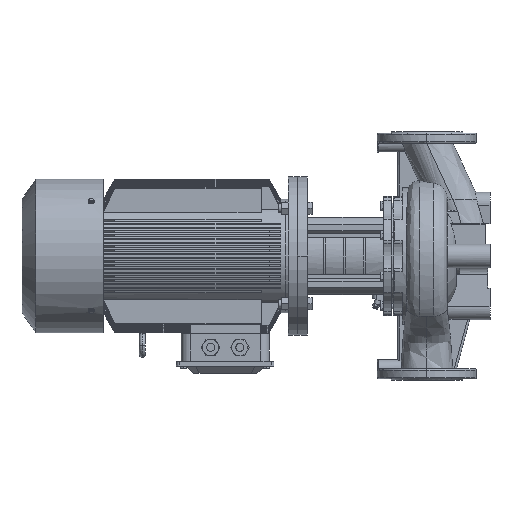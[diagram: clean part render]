
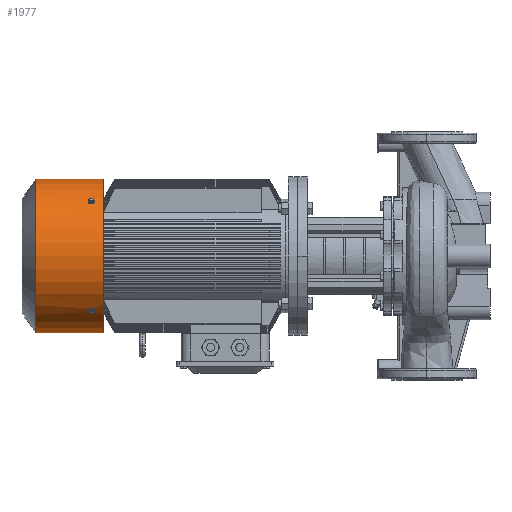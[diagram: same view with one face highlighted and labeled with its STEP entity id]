
A CAD part, left-side view. The second image highlights one B-rep face of the part: STEP entity #1977.
In plain terms, the highlighted cylindrical face has radius 170 mm (diameter 340 mm), a partial arc.
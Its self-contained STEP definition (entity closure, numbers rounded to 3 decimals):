
#278=FACE_BOUND('',#5509,.T.);
#279=FACE_BOUND('',#5510,.T.);
#280=FACE_BOUND('',#5511,.T.);
#769=CYLINDRICAL_SURFACE('',#26199,170.);
#1977=ADVANCED_FACE('',(#278,#279,#280),#769,.T.);
#5509=EDGE_LOOP('',(#12327,#12328));
#5510=EDGE_LOOP('',(#12329,#12330));
#5511=EDGE_LOOP('',(#12331,#12332,#12333,#12334));
#7219=CIRCLE('',#26196,170.);
#7220=CIRCLE('',#26198,170.);
#8224=B_SPLINE_CURVE_WITH_KNOTS('',3,(#45585,#45586,#45587,#45588,#45589,
#45590,#45591,#45592,#45593,#45594),.UNSPECIFIED.,.F.,.F.,(4,2,2,2,4),(0.,
0.25,0.5,0.75,1.),.UNSPECIFIED.);
#8227=B_SPLINE_CURVE_WITH_KNOTS('',3,(#45639,#45640,#45641,#45642,#45643,
#45644,#45645,#45646,#45647,#45648),.UNSPECIFIED.,.F.,.F.,(4,2,2,2,4),(0.,
0.25,0.5,0.75,1.),.UNSPECIFIED.);
#8228=B_SPLINE_CURVE_WITH_KNOTS('',3,(#45661,#45662,#45663,#45664,#45665,
#45666,#45667,#45668,#45669,#45670),.UNSPECIFIED.,.F.,.F.,(4,2,2,2,4),(0.,
0.25,0.5,0.75,1.),.UNSPECIFIED.);
#8229=B_SPLINE_CURVE_WITH_KNOTS('',3,(#45671,#45672,#45673,#45674,#45675,
#45676,#45677,#45678,#45679,#45680),.UNSPECIFIED.,.F.,.F.,(4,2,2,2,4),(0.,
0.25,0.5,0.75,1.),.UNSPECIFIED.);
#12327=ORIENTED_EDGE('',*,*,#20505,.T.);
#12328=ORIENTED_EDGE('',*,*,#20511,.T.);
#12329=ORIENTED_EDGE('',*,*,#20493,.T.);
#12330=ORIENTED_EDGE('',*,*,#20512,.T.);
#12331=ORIENTED_EDGE('',*,*,#20509,.T.);
#12332=ORIENTED_EDGE('',*,*,#20513,.F.);
#12333=ORIENTED_EDGE('',*,*,#20514,.F.);
#12334=ORIENTED_EDGE('',*,*,#20515,.T.);
#17561=VERTEX_POINT('',#45584);
#17562=VERTEX_POINT('',#45595);
#17573=VERTEX_POINT('',#45638);
#17574=VERTEX_POINT('',#45649);
#17577=VERTEX_POINT('',#45656);
#17578=VERTEX_POINT('',#45658);
#17579=VERTEX_POINT('',#45682);
#17580=VERTEX_POINT('',#45684);
#20493=EDGE_CURVE('',#17562,#17561,#8224,.T.);
#20505=EDGE_CURVE('',#17574,#17573,#8227,.T.);
#20509=EDGE_CURVE('',#17578,#17577,#7219,.T.);
#20511=EDGE_CURVE('',#17573,#17574,#8228,.T.);
#20512=EDGE_CURVE('',#17561,#17562,#8229,.T.);
#20513=EDGE_CURVE('',#17579,#17577,#23057,.T.);
#20514=EDGE_CURVE('',#17580,#17579,#7220,.T.);
#20515=EDGE_CURVE('',#17580,#17578,#23058,.T.);
#23057=LINE('',#45681,#24403);
#23058=LINE('',#45685,#24404);
#24403=VECTOR('',#31175,1.);
#24404=VECTOR('',#31178,1.);
#26196=AXIS2_PLACEMENT_3D('',#45657,#31170,#31171);
#26198=AXIS2_PLACEMENT_3D('',#45683,#31176,#31177);
#26199=AXIS2_PLACEMENT_3D('',#45686,#31179,#31180);
#31170=DIRECTION('',(0.,-1.,0.));
#31171=DIRECTION('',(0.,0.,1.));
#31175=DIRECTION('',(0.,1.,0.));
#31176=DIRECTION('',(0.,-1.,0.));
#31177=DIRECTION('',(0.,0.,1.));
#31178=DIRECTION('',(0.,1.,0.));
#31179=DIRECTION('',(0.,-1.,0.));
#31180=DIRECTION('',(0.,0.,-1.));
#45584=CARTESIAN_POINT('',(-124.92,743.5,115.304));
#45585=CARTESIAN_POINT('',(-115.304,743.5,124.92));
#45586=CARTESIAN_POINT('',(-115.304,741.703,124.92));
#45587=CARTESIAN_POINT('',(-115.848,739.946,124.422));
#45588=CARTESIAN_POINT('',(-117.672,737.437,122.698));
#45589=CARTESIAN_POINT('',(-118.951,736.701,121.466));
#45590=CARTESIAN_POINT('',(-121.459,736.699,118.957));
#45591=CARTESIAN_POINT('',(-122.685,737.42,117.686));
#45592=CARTESIAN_POINT('',(-124.43,739.957,115.839));
#45593=CARTESIAN_POINT('',(-124.92,741.703,115.304));
#45594=CARTESIAN_POINT('',(-124.92,743.5,115.304));
#45595=CARTESIAN_POINT('',(-115.304,743.5,124.92));
#45638=CARTESIAN_POINT('',(-115.304,743.5,-124.92));
#45639=CARTESIAN_POINT('',(-124.92,743.5,-115.304));
#45640=CARTESIAN_POINT('',(-124.92,741.703,-115.304));
#45641=CARTESIAN_POINT('',(-124.422,739.946,-115.848));
#45642=CARTESIAN_POINT('',(-122.698,737.437,-117.672));
#45643=CARTESIAN_POINT('',(-121.466,736.701,-118.951));
#45644=CARTESIAN_POINT('',(-118.957,736.699,-121.459));
#45645=CARTESIAN_POINT('',(-117.686,737.42,-122.685));
#45646=CARTESIAN_POINT('',(-115.839,739.957,-124.43));
#45647=CARTESIAN_POINT('',(-115.304,741.703,-124.92));
#45648=CARTESIAN_POINT('',(-115.304,743.5,-124.92));
#45649=CARTESIAN_POINT('',(-124.92,743.5,-115.304));
#45656=CARTESIAN_POINT('',(0.,865.551,-170.));
#45657=CARTESIAN_POINT('',(0.,865.551,0.));
#45658=CARTESIAN_POINT('',(0.,865.551,170.));
#45661=CARTESIAN_POINT('',(-115.304,743.5,-124.92));
#45662=CARTESIAN_POINT('',(-115.304,745.297,-124.92));
#45663=CARTESIAN_POINT('',(-115.848,747.054,-124.422));
#45664=CARTESIAN_POINT('',(-117.672,749.563,-122.698));
#45665=CARTESIAN_POINT('',(-118.951,750.299,-121.466));
#45666=CARTESIAN_POINT('',(-121.459,750.301,-118.957));
#45667=CARTESIAN_POINT('',(-122.685,749.58,-117.686));
#45668=CARTESIAN_POINT('',(-124.43,747.043,-115.839));
#45669=CARTESIAN_POINT('',(-124.92,745.297,-115.304));
#45670=CARTESIAN_POINT('',(-124.92,743.5,-115.304));
#45671=CARTESIAN_POINT('',(-124.92,743.5,115.304));
#45672=CARTESIAN_POINT('',(-124.92,745.297,115.304));
#45673=CARTESIAN_POINT('',(-124.422,747.054,115.848));
#45674=CARTESIAN_POINT('',(-122.698,749.563,117.672));
#45675=CARTESIAN_POINT('',(-121.466,750.299,118.951));
#45676=CARTESIAN_POINT('',(-118.957,750.301,121.459));
#45677=CARTESIAN_POINT('',(-117.686,749.58,122.685));
#45678=CARTESIAN_POINT('',(-115.839,747.043,124.43));
#45679=CARTESIAN_POINT('',(-115.304,745.297,124.92));
#45680=CARTESIAN_POINT('',(-115.304,743.5,124.92));
#45681=CARTESIAN_POINT('',(0.,176.5,-170.));
#45682=CARTESIAN_POINT('',(0.,716.5,-170.));
#45683=CARTESIAN_POINT('',(0.,716.5,0.));
#45684=CARTESIAN_POINT('',(0.,716.5,170.));
#45685=CARTESIAN_POINT('',(0.,176.5,170.));
#45686=CARTESIAN_POINT('',(0.,176.5,0.));
